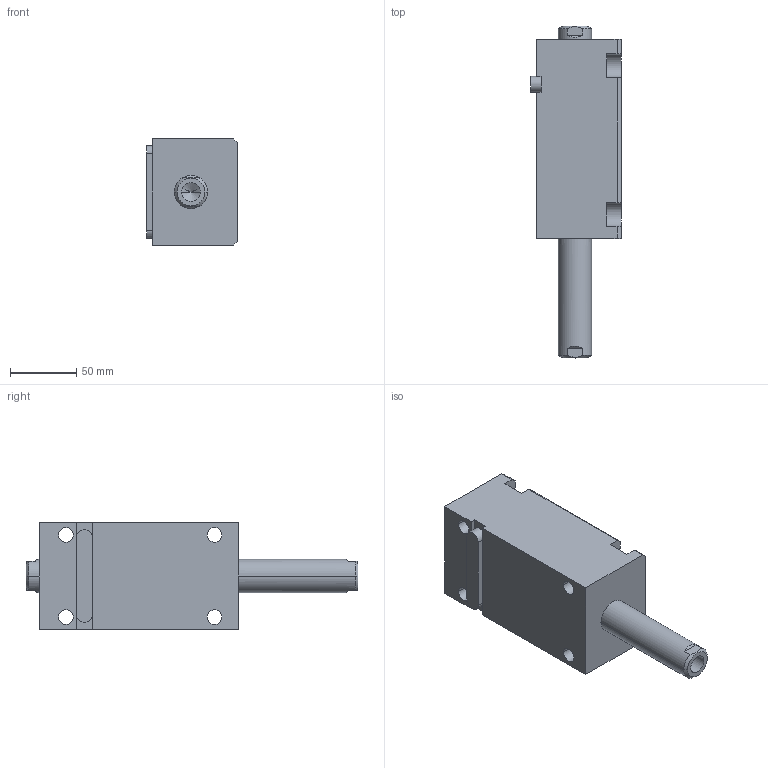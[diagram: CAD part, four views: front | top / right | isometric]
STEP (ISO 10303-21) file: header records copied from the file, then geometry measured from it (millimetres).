
FILE_DESCRIPTION (( 'STEP AP214' ), '1' );
FILE_NAME ('chtb-lw40x80_asm.STEP', '2018-06-05T02:19:12', ( 'Windows' ), ( 'Microsoft' ), 'SwSTEP 2.0', 'SolidWorks 2015', '' );
FILE_SCHEMA (( 'AUTOMOTIVE_DESIGN' ));
Length unit declared in the file: millimetre
Products named in the file (5): CHTB-SW40X80NHSG; CHTB-SD40QG; CHTB-LW40X80NBT; CHTB-LA40PJ; chtb-lw40x80_asm
Assembly tree (4 placements, depth 2):
  chtb-lw40x80_asm
    CHTB-LA40PJ
    CHTB-LW40X80NBT
    CHTB-SD40QG
    CHTB-SW40X80NHSG
Bounding box: 68.5 x 250 x 80 mm (x, y, z)
Volume: 711810.4 mm3; surface area: 117709.4 mm2
Topology: 4 solids, 4 shells, 172 faces, 462 edges, 304 vertices
Faces by surface type: cylinder 77, plane 52, cone 17, bspline 14, torus 12
Entity records: 10654 total; most frequent: CARTESIAN_POINT 6188, ORIENTED_EDGE 904, DIRECTION 853, EDGE_CURVE 452, AXIS2_PLACEMENT_3D 340, VERTEX_POINT 304, EDGE_LOOP 204, CIRCLE 175
